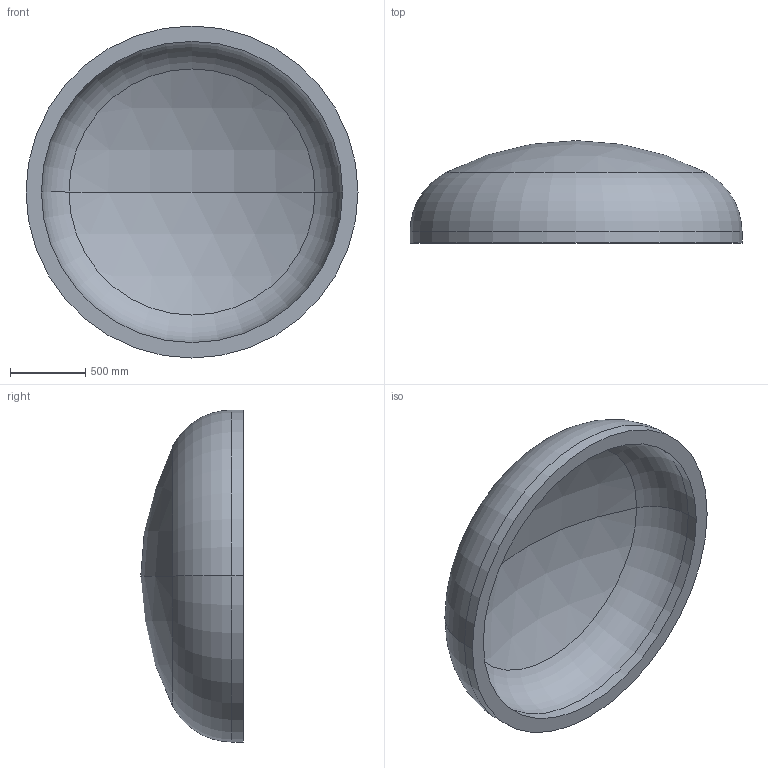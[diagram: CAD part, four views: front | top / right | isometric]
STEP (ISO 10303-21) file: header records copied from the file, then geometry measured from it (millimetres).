
FILE_DESCRIPTION (( 'STEP AP203' ), '1' );
FILE_NAME ('DIN 28013 Korbbogenform_-_Boden DIN 28013 - 2200 x 75 - I - s=102.step', '2016-07-01T14:54:59', ( '' ), ( '' ), 'SwSTEP 2.0', 'SolidWorks 2013', '' );
FILE_SCHEMA (( 'CONFIG_CONTROL_DESIGN' ));
Length unit declared in the file: millimetre
Products named in the file (1): DIN 28013 Korbbogenform_-_Boden DIN 28013 - 2200 x 75 - I - s=102
Bounding box: 2200 x 678.65 x 2200 mm (x, y, z)
Volume: 556645006 mm3; surface area: 11608683.1 mm2
Topology: 1 solids, 1 shells, 13 faces, 24 edges, 14 vertices
Faces by surface type: torus 4, cylinder 4, sphere 4, plane 1
Entity records: 407 total; most frequent: DIRECTION 72, CARTESIAN_POINT 52, ORIENTED_EDGE 48, AXIS2_PLACEMENT_3D 34, EDGE_CURVE 24, CIRCLE 20, VERTEX_POINT 14, EDGE_LOOP 14
